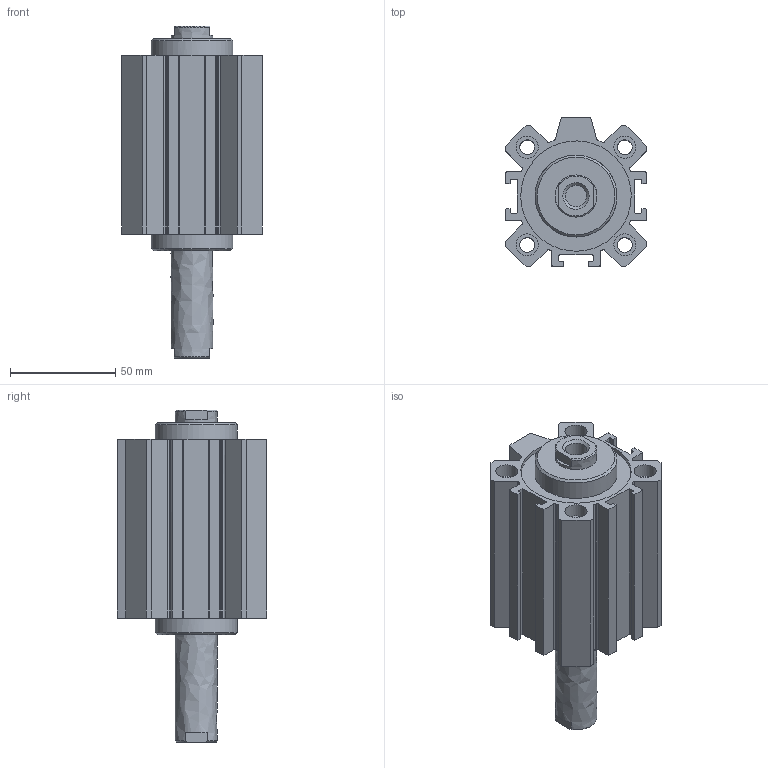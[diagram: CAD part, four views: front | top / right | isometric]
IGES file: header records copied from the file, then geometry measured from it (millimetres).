
Global section: file name: 1514_50_0045; native system: Autodesk Inventor 2014; preprocessor: unknown; author: A. Manieri; date: 20160824.134204; units: millimetre
Bounding box: 67 x 71 x 158 mm (x, y, z)
Volume: 253251.6 mm3; surface area: 82068.9 mm2
Topology: 2 solids, 2 shells, 178 faces, 482 edges, 328 vertices
Faces by surface type: bspline 178
